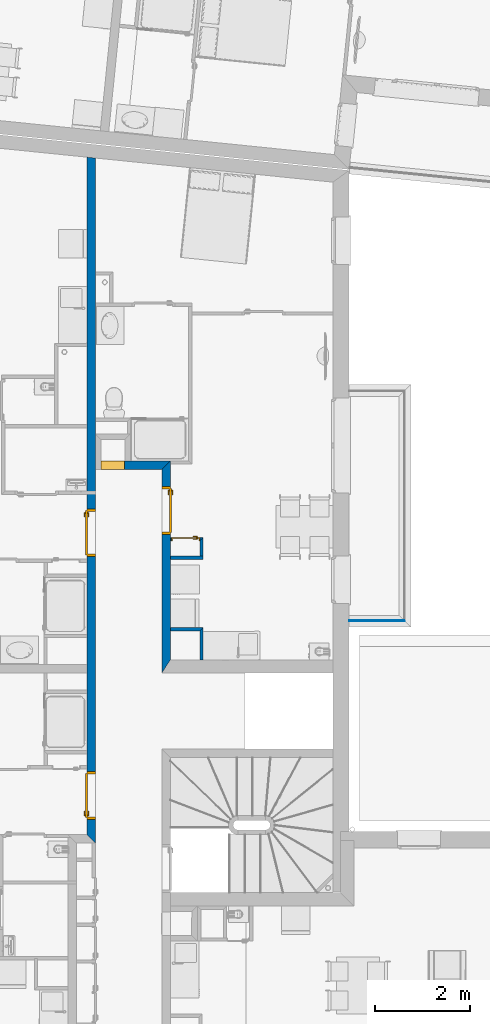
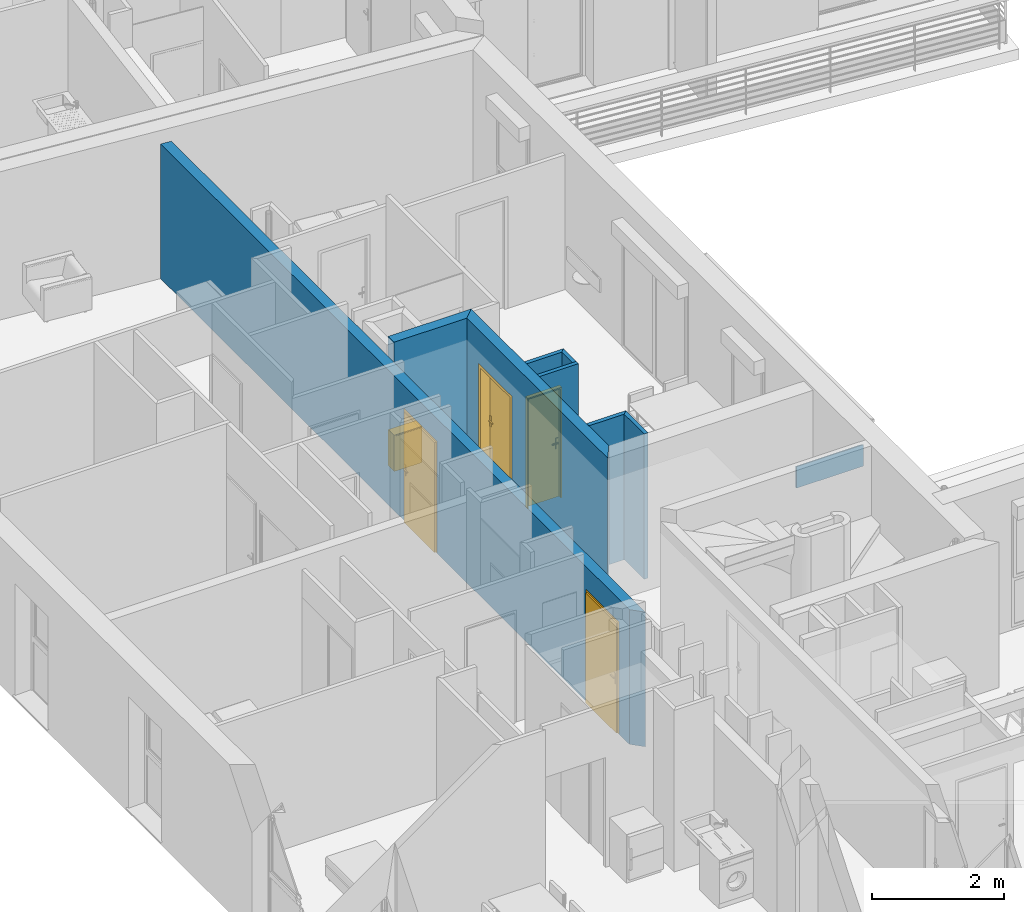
# One storey, part 31 of 164: 9 walls, 5 doors, 5 openings.
"""IFC2X3 building model written with IfcOpenShell, lengths in millimetres."""

from ifc_helpers import new_model, entity, si_unit, converted_unit, derived_unit, money_unit, direction, frame, origin_with_axes, origin_2d_with_axis, place, context, subcontext, project, spatial, polyline, rectangle, outline, extrude, faceted_brep, source, transform, mapped, material, layer, layer_set, layer_usage, type_object, element, fill, save


model = new_model("IFC2X3")

# Units and contexts
model_context = context("Model", 3, precision=0.01, world=origin_with_axes(), true_north=direction((0.0, 1.0)))
body_context = subcontext(model_context, "Body", "Model", "MODEL_VIEW")
ifc_project = project(units=[si_unit("LENGTHUNIT", "METRE", prefix="MILLI"), si_unit("AREAUNIT", "SQUARE_METRE"), si_unit("VOLUMEUNIT", "CUBIC_METRE"), converted_unit("PLANEANGLEUNIT", "DEGREE", entity("IfcPlaneAngleMeasure", 0.0174532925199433), si_unit("PLANEANGLEUNIT", "RADIAN"), dimensions=[0, 0, 0, 0, 0, 0, 0]), money_unit("USD"), converted_unit("TIMEUNIT", "Year", entity("IfcTimeMeasure", 31557600.0), si_unit("TIMEUNIT", "SECOND"), dimensions=[0, 0, 1, 0, 0, 0, 0]), si_unit("MASSUNIT", "GRAM", prefix="KILO"), si_unit("THERMODYNAMICTEMPERATUREUNIT", "DEGREE_CELSIUS"), si_unit("LUMINOUSINTENSITYUNIT", "LUMEN"), si_unit("ENERGYUNIT", "JOULE", prefix="MEGA"), derived_unit("THERMALCONDUCTANCEUNIT", [(si_unit("POWERUNIT", "WATT"), 1), (si_unit("LENGTHUNIT", "METRE"), -1), (si_unit("THERMODYNAMICTEMPERATUREUNIT", "KELVIN"), -1)]), derived_unit("SPECIFICHEATCAPACITYUNIT", [(si_unit("ENERGYUNIT", "JOULE"), 1), (si_unit("MASSUNIT", "GRAM", prefix="KILO"), -1), (si_unit("THERMODYNAMICTEMPERATUREUNIT", "KELVIN"), -1)]), derived_unit("MASSDENSITYUNIT", [(si_unit("MASSUNIT", "GRAM", prefix="KILO"), 1), (si_unit("VOLUMEUNIT", "CUBIC_METRE"), -1)])], contexts=[model_context])

# Site, building, storey
site_placement = place(None, origin_with_axes())
site = spatial("IfcSite", under=ifc_project, at=site_placement, Name="Site", CompositionType="ELEMENT")
building_placement = place(site_placement, origin_with_axes())
building = spatial("IfcBuilding", under=site, at=building_placement, Name="Bâtiment", CompositionType="ELEMENT")
storey_placement = place(building_placement, frame((0.0, 0.0, 5750.0), z_axis=(0.0, 0.0, 1.0), x_axis=(1.0, 0.0, 0.0)))
storey = spatial("IfcBuildingStorey", under=building, at=storey_placement, Name="Etage1", CompositionType="ELEMENT", Elevation=5750.0)

# Wall, openings, doors
ifc_material_1 = material(Name="Parpaing 314940890")
ifc_layer_1 = layer(ifc_material_1, 180.0, ventilated="UNKNOWN")
ifc_layer_set_1 = layer_set([ifc_layer_1], Name="Beton  18 0018356637")
ifc_layer_usage_1 = layer_usage(ifc_layer_set_1, "AXIS2", "NEGATIVE", 0.0)
wall_type_1 = type_object("IfcWallType", Name="Beton  18 0018356637 180", PredefinedType="NOTDEFINED")
wall_1_placement = place(storey_placement, frame((2224312.31835671, -621489.740300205, 0.0), z_axis=(0.0, 0.0, 1.0), x_axis=(5.5594792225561e-06, -0.9999999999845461, 0.0)))
wall_1 = element("IfcWallStandardCase", 1, at=wall_1_placement, inside=storey, type_object=wall_type_1, material=ifc_layer_usage_1, Name="Mur-143", context=body_context, shape_type="SweptSolid", body=[
    extrude(outline(polyline([(263.1489631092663, -180.0000000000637), (14517.55782221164, -180.0000000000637), (14697.55927324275, -1.13686837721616e-10), (281.4422849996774, 0.0), (263.1489631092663, -180.0000000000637)])), origin_with_axes(), (0.0, 0.0, 1.0), 2500.000000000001),
])
opening_1_placement = place(wall_1_placement, frame((13699.36717597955, -1.13686837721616e-10, 0.0), z_axis=(0.0, 0.0, 1.0), x_axis=(1.0, 0.0, 0.0)))
opening_1 = element("IfcOpeningElement", 2, at=opening_1_placement, cuts=wall_1, Name="Por-295", context=body_context, shape_type="SweptSolid", body=[
    extrude(rectangle(XDim=1010.00001192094, YDim=2080.0, at=origin_2d_with_axis()), frame((-5.960473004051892e-06, 180.0000000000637, 1040.0), z_axis=(0.0, -1.0, 0.0), x_axis=(-1.0, 0.0, 0.0)), (0.0, 0.0, 1.0), 360.0),
])
opening_2_placement = place(wall_1_placement, frame((8169.925829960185, 0.0, 0.0), z_axis=(0.0, 0.0, 1.0), x_axis=(1.0, 0.0, 0.0)))
opening_2 = element("IfcOpeningElement", 3, at=opening_2_placement, cuts=wall_1, Name="Por-295", context=body_context, shape_type="SweptSolid", body=[
    extrude(rectangle(XDim=1010.00001192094, YDim=2080.0, at=origin_2d_with_axis()), frame((5.960473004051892e-06, 179.99999999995, 1040.0), z_axis=(0.0, 1.0, 0.0), x_axis=(1.0, 0.0, 0.0)), (0.0, 0.0, -1.0), 360.0),
])
door_style = type_object("IfcDoorStyle", Name="Porte_1v", ConstructionType="NOTDEFINED", OperationType="NOTDEFINED", ParameterTakesPrecedence=False, Sizeable=False)
shared_shape_1 = source(origin_with_axes(), body_context, "Body", "Brep", [
    faceted_brep([(504.9999999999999, 0.0, 0.0), (464.9999999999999, 0.0, 0.0), (464.9999999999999, 0.0, 2040.0), (-464.9999999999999, 0.0, 2040.0), (-464.9999999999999, 0.0, 0.0), (-504.9999999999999, 0.0, 0.0), (-504.9999999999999, 0.0, 2080.0), (504.9999999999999, 0.0, 2080.0), (504.9999999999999, -180.0, 0.0), (449.9999999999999, -180.0, 0.0), (449.9999999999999, -15.0, 0.0), (464.9999999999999, -15.0, 0.0), (464.9999999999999, -15.0, 2040.0), (-464.9999999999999, -15.0, 2040.0), (-464.9999999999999, -15.0, 0.0), (-449.9999999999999, -15.0, 0.0), (-449.9999999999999, -180.0, 0.0), (-504.9999999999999, -180.0, 0.0), (-504.9999999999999, -180.0, 2080.0), (504.9999999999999, -180.0, 2080.0), (-449.9999999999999, -180.0, 2025.0), (449.9999999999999, -180.0, 2025.0), (449.9999999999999, -15.0, 2025.0), (-449.9999999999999, -15.0, 2025.0)], [[[0, 1, 2, 3, 4, 5, 6, 7]], [[0, 8, 9, 10, 11, 1]], [[1, 11, 12, 2]], [[2, 12, 13, 3]], [[3, 13, 14, 4]], [[5, 4, 14, 15, 16, 17]], [[18, 6, 5, 17]], [[19, 7, 6, 18]], [[8, 0, 7, 19]], [[9, 8, 19, 18, 17, 16, 20, 21]], [[10, 9, 21, 22]], [[11, 10, 22, 23, 15, 14, 13, 12]], [[23, 20, 16, 15]], [[22, 21, 20, 23]]]),
    faceted_brep([(-399.9999999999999, -15.0, 900.0), (-439.9999999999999, -15.0, 900.0), (-439.9999999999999, -15.0, 1100.0), (-399.9999999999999, -15.0, 1100.0), (-399.9999999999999, -25.0, 900.0), (-439.9999999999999, -25.0, 900.0), (-439.9999999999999, -25.0, 1100.0), (-399.9999999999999, -25.0, 1100.0)], [[[0, 1, 2, 3]], [[1, 0, 4, 5]], [[2, 1, 5, 6]], [[3, 2, 6, 7]], [[0, 3, 7, 4]], [[5, 4, 7, 6]]]),
    faceted_brep([(-329.9999999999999, -25.0, 1000.0), (-429.9999999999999, -25.0, 1000.0), (-429.9999999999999, -25.0, 1020.0), (-329.9999999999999, -25.0, 1020.0), (-329.9999999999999, -44.99999999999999, 1000.0), (-429.9999999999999, -44.99999999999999, 1000.0), (-429.9999999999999, -44.99999999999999, 1020.0), (-329.9999999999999, -44.99999999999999, 1020.0)], [[[0, 1, 2, 3]], [[1, 0, 4, 5]], [[2, 1, 5, 6]], [[3, 2, 6, 7]], [[0, 3, 7, 4]], [[5, 4, 7, 6]]]),
    faceted_brep([(-399.9999999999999, 34.99999999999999, 900.0), (-439.9999999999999, 34.99999999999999, 900.0), (-439.9999999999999, 34.99999999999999, 1100.0), (-399.9999999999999, 34.99999999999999, 1100.0), (-399.9999999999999, 25.0, 900.0), (-439.9999999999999, 25.0, 900.0), (-439.9999999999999, 25.0, 1100.0), (-399.9999999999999, 25.0, 1100.0)], [[[0, 1, 2, 3]], [[1, 0, 4, 5]], [[2, 1, 5, 6]], [[3, 2, 6, 7]], [[0, 3, 7, 4]], [[5, 4, 7, 6]]]),
    faceted_brep([(-329.9999999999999, 55.0, 1000.0), (-429.9999999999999, 55.0, 1000.0), (-429.9999999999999, 55.0, 1020.0), (-329.9999999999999, 55.0, 1020.0), (-329.9999999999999, 34.99999999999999, 1000.0), (-429.9999999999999, 34.99999999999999, 1000.0), (-429.9999999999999, 34.99999999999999, 1020.0), (-329.9999999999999, 34.99999999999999, 1020.0)], [[[0, 1, 2, 3]], [[1, 0, 4, 5]], [[2, 1, 5, 6]], [[3, 2, 6, 7]], [[0, 3, 7, 4]], [[5, 4, 7, 6]]]),
    faceted_brep([(-464.9999999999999, 25.0, 0.0), (464.9999999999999, 25.0, 0.0), (464.9999999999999, -15.0, 0.0), (-464.9999999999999, -15.0, 0.0), (-464.9999999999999, 25.0, 2040.0), (464.9999999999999, 25.0, 2040.0), (464.9999999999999, -15.0, 2040.0), (-464.9999999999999, -15.0, 2040.0)], [[[0, 1, 2, 3]], [[0, 4, 5, 1]], [[1, 5, 6, 2]], [[3, 2, 6, 7]], [[4, 0, 3, 7]], [[5, 4, 7, 6]]]),
])
door_1_placement = place(opening_1_placement, frame((464.9999999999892, 2.273736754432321e-10, 0.0), z_axis=(0.0, 0.0, 1.0), x_axis=(-1.0, 0.0, 0.0)))
door_1 = element("IfcDoor", 4, at=door_1_placement, inside=storey, type_object=door_style, Name="Por-295", OverallHeight=2040.0, OverallWidth=930.0, context=body_context, shape_type="MappedRepresentation", body=[
    mapped(shared_shape_1, transform((465.0000000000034, 180.0000000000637, 0.0))),
])
fill(opening_1, door_1)
shared_shape_2 = source(origin_with_axes(), body_context, "Body", "Brep", [
    faceted_brep([(-504.9999999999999, 0.0, 0.0), (-504.9999999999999, 0.0, 2080.0), (504.9999999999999, 0.0, 2080.0), (504.9999999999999, 0.0, 0.0), (464.9999999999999, 0.0, 0.0), (464.9999999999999, 0.0, 2040.0), (-464.9999999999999, 0.0, 2040.0), (-464.9999999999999, 0.0, 0.0), (-504.9999999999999, -180.0, 0.0), (-504.9999999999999, -180.0, 2080.0), (504.9999999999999, -180.0, 2080.0), (504.9999999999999, -180.0, 0.0), (449.9999999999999, -180.0, 0.0), (449.9999999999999, -15.0, 0.0), (464.9999999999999, -15.0, 0.0), (464.9999999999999, -15.0, 2040.0), (-464.9999999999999, -15.0, 2040.0), (-464.9999999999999, -15.0, 0.0), (-449.9999999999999, -15.0, 0.0), (-449.9999999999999, -180.0, 0.0), (-449.9999999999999, -180.0, 2025.0), (449.9999999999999, -180.0, 2025.0), (449.9999999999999, -15.0, 2025.0), (-449.9999999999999, -15.0, 2025.0)], [[[0, 1, 2, 3, 4, 5, 6, 7]], [[8, 9, 1, 0]], [[9, 10, 2, 1]], [[10, 11, 3, 2]], [[3, 11, 12, 13, 14, 4]], [[5, 4, 14, 15]], [[6, 5, 15, 16]], [[7, 6, 16, 17]], [[0, 7, 17, 18, 19, 8]], [[19, 20, 21, 12, 11, 10, 9, 8]], [[22, 13, 12, 21]], [[17, 16, 15, 14, 13, 22, 23, 18]], [[18, 23, 20, 19]], [[23, 22, 21, 20]]]),
    faceted_brep([(399.9999999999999, -15.0, 900.0), (399.9999999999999, -15.0, 1100.0), (439.9999999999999, -15.0, 1100.0), (439.9999999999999, -15.0, 900.0), (399.9999999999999, -25.0, 900.0), (399.9999999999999, -25.0, 1100.0), (439.9999999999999, -25.0, 1100.0), (439.9999999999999, -25.0, 900.0)], [[[0, 1, 2, 3]], [[0, 4, 5, 1]], [[1, 5, 6, 2]], [[2, 6, 7, 3]], [[3, 7, 4, 0]], [[7, 6, 5, 4]]]),
    faceted_brep([(329.9999999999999, -25.0, 1000.0), (329.9999999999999, -25.0, 1020.0), (429.9999999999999, -25.0, 1020.0), (429.9999999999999, -25.0, 1000.0), (329.9999999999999, -44.99999999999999, 1000.0), (329.9999999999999, -44.99999999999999, 1020.0), (429.9999999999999, -44.99999999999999, 1020.0), (429.9999999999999, -44.99999999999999, 1000.0)], [[[0, 1, 2, 3]], [[0, 4, 5, 1]], [[1, 5, 6, 2]], [[2, 6, 7, 3]], [[3, 7, 4, 0]], [[7, 6, 5, 4]]]),
    faceted_brep([(399.9999999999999, 34.99999999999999, 900.0), (399.9999999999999, 34.99999999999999, 1100.0), (439.9999999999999, 34.99999999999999, 1100.0), (439.9999999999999, 34.99999999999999, 900.0), (399.9999999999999, 25.0, 900.0), (399.9999999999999, 25.0, 1100.0), (439.9999999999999, 25.0, 1100.0), (439.9999999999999, 25.0, 900.0)], [[[0, 1, 2, 3]], [[0, 4, 5, 1]], [[1, 5, 6, 2]], [[2, 6, 7, 3]], [[3, 7, 4, 0]], [[7, 6, 5, 4]]]),
    faceted_brep([(329.9999999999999, 55.0, 1000.0), (329.9999999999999, 55.0, 1020.0), (429.9999999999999, 55.0, 1020.0), (429.9999999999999, 55.0, 1000.0), (329.9999999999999, 34.99999999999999, 1000.0), (329.9999999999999, 34.99999999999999, 1020.0), (429.9999999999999, 34.99999999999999, 1020.0), (429.9999999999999, 34.99999999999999, 1000.0)], [[[0, 1, 2, 3]], [[0, 4, 5, 1]], [[1, 5, 6, 2]], [[2, 6, 7, 3]], [[3, 7, 4, 0]], [[7, 6, 5, 4]]]),
    faceted_brep([(464.9999999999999, 25.0, 0.0), (464.9999999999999, -15.0, 0.0), (-464.9999999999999, -15.0, 0.0), (-464.9999999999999, 25.0, 0.0), (464.9999999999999, 25.0, 2040.0), (464.9999999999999, -15.0, 2040.0), (-464.9999999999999, -15.0, 2040.0), (-464.9999999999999, 25.0, 2040.0)], [[[0, 1, 2, 3]], [[4, 5, 1, 0]], [[1, 5, 6, 2]], [[3, 2, 6, 7]], [[0, 3, 7, 4]], [[7, 6, 5, 4]]]),
])
door_2_placement = place(opening_2_placement, frame((465.0000000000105, 1.13686837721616e-10, 0.0), z_axis=(0.0, 0.0, 1.0), x_axis=(-1.0, 0.0, 0.0)))
door_2 = element("IfcDoor", 5, at=door_2_placement, inside=storey, type_object=door_style, Name="Por-295", OverallHeight=2040.0, OverallWidth=930.0, context=body_context, shape_type="MappedRepresentation", body=[
    mapped(shared_shape_2, transform((464.9999999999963, 180.0000000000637, 0.0))),
])
fill(opening_2, door_2)

# Wall, opening, door
ifc_layer_usage_2 = layer_usage(ifc_layer_set_1, "AXIS2", "POSITIVE", 0.0)
wall_2_placement = place(storey_placement, frame((2225712.31835671, -628147.4571735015, 0.0), z_axis=(0.0, 0.0, 1.0), x_axis=(0.0, -1.0, 0.0)))
wall_2 = element("IfcWallStandardCase", 6, at=wall_2_placement, inside=storey, type_object=wall_type_1, material=ifc_layer_usage_2, Name="Mur-143", context=body_context, shape_type="SweptSolid", body=[
    extrude(outline(polyline([(180.0000000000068, 0.0), (4466.057505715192, 0.0), (4186.057505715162, 179.99999999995), (0.0, 179.99999999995), (180.0000000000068, 0.0)])), origin_with_axes(), (0.0, 0.0, 1.0), 2700.0),
])
opening_3_placement = place(wall_2_placement, frame((1043.526442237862, -2.273736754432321e-10, 0.0), z_axis=(0.0, 0.0, 1.0), x_axis=(1.0, 0.0, 0.0)))
opening_3 = element("IfcOpeningElement", 7, at=opening_3_placement, cuts=wall_2, Name="Por-296", context=body_context, shape_type="SweptSolid", body=[
    extrude(rectangle(XDim=1010.00001192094, YDim=2080.0, at=origin_2d_with_axis()), frame((5.960487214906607e-06, -179.99999999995, 1040.0), z_axis=(0.0, 1.0, 0.0), x_axis=(1.0, 0.0, 0.0)), (0.0, 0.0, 1.0), 360.0),
])
door_3_placement = place(opening_3_placement, frame((-465.0000000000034, 2.273736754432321e-10, 0.0), z_axis=(0.0, 0.0, 1.0), x_axis=(1.0, 0.0, 0.0)))
door_3 = element("IfcDoor", 8, at=door_3_placement, inside=storey, type_object=door_style, Name="Por-296", OverallHeight=2040.0, OverallWidth=930.0, context=body_context, shape_type="MappedRepresentation", body=[
    mapped(shared_shape_1, transform((464.9999999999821, 180.0000000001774, 0.0))),
])
fill(opening_3, door_3)

ifc_layer_usage_3 = layer_usage(ifc_layer_set_1, "AXIS2", "NEGATIVE", 0.0)
wall_3_placement = place(storey_placement, frame((2224312.31835671, -628147.4571735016, 0.0), z_axis=(0.0, 0.0, 1.0), x_axis=(1.0, 0.0, 0.0)))
wall_3 = element("IfcWallStandardCase", 9, at=wall_3_placement, inside=storey, type_object=wall_type_1, material=ifc_layer_usage_3, Name="Mur-142", context=body_context, shape_type="SweptSolid", body=[
    extrude(outline(polyline([(120.0000000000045, -180.0000000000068), (1399.999999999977, -179.9999999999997), (1579.999999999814, 0.0), (120.0000000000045, 0.0), (120.0000000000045, -180.0000000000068)])), origin_with_axes(), (0.0, 0.0, 1.0), 2700.0),
])
opening_4_placement = place(wall_3_placement, frame((369.4324055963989, 0.0, 299.9999999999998), z_axis=(0.0, 0.0, 1.0), x_axis=(1.0, 0.0, 0.0)))
opening_4 = element("IfcOpeningElement", 10, at=opening_4_placement, cuts=wall_3, Name="Por-241", context=body_context, shape_type="SweptSolid", body=[
    extrude(rectangle(XDim=489.9999985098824, YDim=669.9999999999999, at=origin_2d_with_axis()), frame((-7.451035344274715e-07, 179.9999999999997, 334.9999999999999), z_axis=(0.0, 1.0, 0.0), x_axis=(1.0, 0.0, 0.0)), (0.0, 0.0, -1.0), 360.0),
])
shared_shape_3 = source(origin_with_axes(), body_context, "Body", "Brep", [
    faceted_brep([(-245.0, 0.0, 0.0), (-245.0, 0.0, 670.0), (245.0, 0.0, 670.0), (245.0, 0.0, 0.0), (225.0, 0.0, 0.0), (225.0, 0.0, 650.0), (-225.0, 0.0, 650.0), (-225.0, 0.0, 0.0), (-245.0, -180.0, 0.0), (-245.0, -180.0, 670.0), (245.0, -180.0, 670.0), (245.0, -180.0, 0.0), (210.0, -180.0, 0.0), (210.0, -15.0, 0.0), (225.0, -15.0, 0.0), (225.0, -15.0, 650.0), (-225.0, -15.0, 650.0), (-225.0, -15.0, 0.0), (-210.0, -15.0, 0.0), (-210.0, -180.0, 0.0), (-210.0, -180.0, 635.0), (210.0, -180.0, 635.0), (210.0, -15.0, 635.0), (-210.0, -15.0, 635.0)], [[[0, 1, 2, 3, 4, 5, 6, 7]], [[8, 9, 1, 0]], [[9, 10, 2, 1]], [[10, 11, 3, 2]], [[3, 11, 12, 13, 14, 4]], [[5, 4, 14, 15]], [[6, 5, 15, 16]], [[7, 6, 16, 17]], [[0, 7, 17, 18, 19, 8]], [[19, 20, 21, 12, 11, 10, 9, 8]], [[22, 13, 12, 21]], [[17, 16, 15, 14, 13, 22, 23, 18]], [[18, 23, 20, 19]], [[23, 22, 21, 20]]]),
    faceted_brep([(225.0, 5.000000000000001, 0.0), (225.0, -15.0, 0.0), (-225.0, -15.0, 0.0), (-225.0, 5.000000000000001, 0.0), (225.0, 5.000000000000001, 650.0), (225.0, -15.0, 650.0), (-225.0, -15.0, 650.0), (-225.0, 5.000000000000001, 650.0)], [[[0, 1, 2, 3]], [[4, 5, 1, 0]], [[1, 5, 6, 2]], [[3, 2, 6, 7]], [[0, 3, 7, 4]], [[7, 6, 5, 4]]]),
])
door_4_placement = place(opening_4_placement, frame((225.0000000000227, 0.0, 0.0), z_axis=(0.0, 0.0, 1.0), x_axis=(-1.0, 0.0, 0.0)))
door_4 = element("IfcDoor", 11, at=door_4_placement, inside=storey, type_object=door_style, Name="Por-241", OverallHeight=650.0, OverallWidth=450.0, context=body_context, shape_type="MappedRepresentation", body=[
    mapped(shared_shape_3, transform((225.0000000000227, 180.0000000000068, 0.0))),
])
fill(opening_4, door_4)

# Wall
ifc_material_2 = material(Name="Hachure solide 268963992")
ifc_layer_2 = layer(ifc_material_2, 70.0, ventilated="UNKNOWN")
ifc_layer_set_2 = layer_set([ifc_layer_2], Name="Cloison 70 0826278243")
ifc_layer_usage_4 = layer_usage(ifc_layer_set_2, "AXIS2", "POSITIVE", -70.0)
wall_type_2 = type_object("IfcWallType", Name="Cloison 70 0826278243 70", PredefinedType="NOTDEFINED")
wall_4_placement = place(storey_placement, frame((2225892.318356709, -630151.0728403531, 0.0), z_axis=(0.0, 0.0, 1.0), x_axis=(1.0, 0.0, 0.0)))
element("IfcWallStandardCase", 12, at=wall_4_placement, inside=storey, type_object=wall_type_2, material=ifc_layer_usage_4, Name="Mur-149", context=body_context, shape_type="SweptSolid", body=[
    extrude(outline(polyline([(0.0, -70.00000000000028), (689.3850035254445, -70.00000000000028), (689.3850035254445, 0.0), (0.0, 0.0), (0.0, -70.00000000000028)])), origin_with_axes(), (0.0, 0.0, 1.0), 2700.0),
])

# Wall, opening, door
ifc_layer_usage_5 = layer_usage(ifc_layer_set_2, "AXIS2", "POSITIVE", -70.0)
wall_5_placement = place(storey_placement, frame((2225712.318356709, -629761.0728403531, 0.0), z_axis=(0.0, 0.0, 1.0), x_axis=(1.0, 0.0, 0.0)))
wall_5 = element("IfcWallStandardCase", 13, at=wall_5_placement, inside=storey, type_object=wall_type_2, material=ifc_layer_usage_5, Name="Mur-149", context=body_context, shape_type="SweptSolid", body=[
    extrude(outline(polyline([(180.0000000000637, -70.00000000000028), (799.3850035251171, -70.00000000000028), (869.3850035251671, 0.0), (180.0000000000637, 0.0), (180.0000000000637, -70.00000000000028)])), origin_with_axes(), (0.0, 0.0, 1.0), 2700.0),
])
opening_5_placement = place(wall_5_placement, frame((499.3850035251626, 0.0, 0.0), z_axis=(0.0, 0.0, 1.0), x_axis=(1.0, 0.0, 0.0)))
opening_5 = element("IfcOpeningElement", 14, at=opening_5_placement, cuts=wall_5, Name="Por-274", context=body_context, shape_type="SweptSolid", body=[
    extrude(rectangle(XDim=599.9999999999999, YDim=2050.0, at=origin_2d_with_axis()), frame((0.0, -70.00000000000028, 1025.0), z_axis=(0.0, -1.0, 0.0), x_axis=(-1.0, 0.0, 0.0)), (0.0, 0.0, -1.0), 140.0),
])
shared_shape_4 = source(origin_with_axes(), body_context, "Body", "Brep", [
    faceted_brep([(-300.0, 0.0, 0.0), (-300.0, 0.0, 2050.0), (300.0, 0.0, 2050.0), (300.0, 0.0, 0.0), (290.0, 0.0, 0.0), (290.0, 0.0, 2040.0), (-290.0, 0.0, 2040.0), (-290.0, 0.0, 0.0), (-300.0, -70.0, 0.0), (-300.0, -70.0, 2050.0), (300.0, -70.0, 2050.0), (300.0, -70.0, 0.0), (279.9999999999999, -70.0, 0.0), (279.9999999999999, -15.0, 0.0), (290.0, -15.0, 0.0), (290.0, -15.0, 2040.0), (-290.0, -15.0, 2040.0), (-290.0, -15.0, 0.0), (-279.9999999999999, -15.0, 0.0), (-279.9999999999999, -70.0, 0.0), (-279.9999999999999, -70.0, 2030.0), (279.9999999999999, -70.0, 2030.0), (279.9999999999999, -15.0, 2030.0), (-279.9999999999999, -15.0, 2030.0)], [[[0, 1, 2, 3, 4, 5, 6, 7]], [[8, 9, 1, 0]], [[9, 10, 2, 1]], [[10, 11, 3, 2]], [[3, 11, 12, 13, 14, 4]], [[5, 4, 14, 15]], [[6, 5, 15, 16]], [[7, 6, 16, 17]], [[0, 7, 17, 18, 19, 8]], [[19, 20, 21, 12, 11, 10, 9, 8]], [[22, 13, 12, 21]], [[17, 16, 15, 14, 13, 22, 23, 18]], [[18, 23, 20, 19]], [[23, 22, 21, 20]]]),
    faceted_brep([(224.9999999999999, -15.0, 900.0), (224.9999999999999, -15.0, 1100.0), (264.9999999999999, -15.0, 1100.0), (264.9999999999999, -15.0, 900.0), (224.9999999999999, -25.0, 900.0), (224.9999999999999, -25.0, 1100.0), (264.9999999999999, -25.0, 1100.0), (264.9999999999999, -25.0, 900.0)], [[[0, 1, 2, 3]], [[0, 4, 5, 1]], [[1, 5, 6, 2]], [[2, 6, 7, 3]], [[3, 7, 4, 0]], [[7, 6, 5, 4]]]),
    faceted_brep([(154.9999999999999, -25.0, 1000.0), (154.9999999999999, -25.0, 1020.0), (254.9999999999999, -25.0, 1020.0), (254.9999999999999, -25.0, 1000.0), (154.9999999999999, -45.0, 1000.0), (154.9999999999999, -45.0, 1020.0), (254.9999999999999, -45.0, 1020.0), (254.9999999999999, -45.0, 1000.0)], [[[0, 1, 2, 3]], [[0, 4, 5, 1]], [[1, 5, 6, 2]], [[2, 6, 7, 3]], [[3, 7, 4, 0]], [[7, 6, 5, 4]]]),
    faceted_brep([(224.9999999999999, 15.0, 900.0), (224.9999999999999, 15.0, 1100.0), (264.9999999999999, 15.0, 1100.0), (264.9999999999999, 15.0, 900.0), (224.9999999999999, 5.000000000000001, 900.0), (224.9999999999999, 5.000000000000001, 1100.0), (264.9999999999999, 5.000000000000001, 1100.0), (264.9999999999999, 5.000000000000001, 900.0)], [[[0, 1, 2, 3]], [[0, 4, 5, 1]], [[1, 5, 6, 2]], [[2, 6, 7, 3]], [[3, 7, 4, 0]], [[7, 6, 5, 4]]]),
    faceted_brep([(154.9999999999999, 35.0, 1000.0), (154.9999999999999, 35.0, 1020.0), (254.9999999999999, 35.0, 1020.0), (254.9999999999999, 35.0, 1000.0), (154.9999999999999, 15.0, 1000.0), (154.9999999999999, 15.0, 1020.0), (254.9999999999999, 15.0, 1020.0), (254.9999999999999, 15.0, 1000.0)], [[[0, 1, 2, 3]], [[0, 4, 5, 1]], [[1, 5, 6, 2]], [[2, 6, 7, 3]], [[3, 7, 4, 0]], [[7, 6, 5, 4]]]),
    faceted_brep([(290.0, 5.000000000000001, 0.0), (290.0, -15.0, 0.0), (-290.0, -15.0, 0.0), (-290.0, 5.000000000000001, 0.0), (290.0, 5.000000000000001, 2040.0), (290.0, -15.0, 2040.0), (-290.0, -15.0, 2040.0), (-290.0, 5.000000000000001, 2040.0)], [[[0, 1, 2, 3]], [[4, 5, 1, 0]], [[1, 5, 6, 2]], [[3, 2, 6, 7]], [[0, 3, 7, 4]], [[7, 6, 5, 4]]]),
])
door_5_placement = place(opening_5_placement, frame((-290.0000000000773, 0.0, 0.0), z_axis=(0.0, 0.0, 1.0), x_axis=(1.0, 0.0, 0.0)))
door_5 = element("IfcDoor", 15, at=door_5_placement, inside=storey, type_object=door_style, Name="Por-274", OverallHeight=2040.0, OverallWidth=580.0, context=body_context, shape_type="MappedRepresentation", body=[
    mapped(shared_shape_4, transform((289.9999999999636, 0.0, 0.0))),
])
fill(opening_5, door_5)

# Walls
ifc_layer_usage_6 = layer_usage(ifc_layer_set_2, "AXIS2", "NEGATIVE", 70.0)
wall_6_placement = place(storey_placement, frame((2226511.703360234, -629761.0728403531, 0.0), z_axis=(0.0, 0.0, 1.0), x_axis=(0.0, -1.0, 0.0)))
element("IfcWallStandardCase", 16, at=wall_6_placement, inside=storey, type_object=wall_type_2, material=ifc_layer_usage_6, Name="Mur-149", context=body_context, shape_type="SweptSolid", body=[
    extrude(outline(polyline([(70.00000000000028, 0.0), (389.9999999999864, 0.0), (389.9999999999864, 70.00000000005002), (0.0, 70.00000000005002), (70.00000000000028, 0.0)])), origin_with_axes(), (0.0, 0.0, 1.0), 2700.0),
])
ifc_layer_usage_7 = layer_usage(ifc_layer_set_2, "AXIS2", "POSITIVE", -70.0)
wall_7_placement = place(storey_placement, frame((2226581.703360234, -631657.6765046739, 0.0), z_axis=(0.0, 0.0, 1.0), x_axis=(-2.310295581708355e-07, -0.9999999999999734, 0.0)))
element("IfcWallStandardCase", 17, at=wall_7_placement, inside=storey, type_object=wall_type_2, material=ifc_layer_usage_7, Name="Mur-148", context=body_context, shape_type="SweptSolid", body=[
    extrude(outline(polyline([(69.99999998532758, -70.00000000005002), (676.2261342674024, -70.00000000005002), (676.2261342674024, 0.0), (0.0, 0.0), (69.99999998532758, -70.00000000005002)])), origin_with_axes(), (0.0, 0.0, 1.0), 2700.0),
])
ifc_material_3 = material(Name="MANQUANT")
ifc_layer_3 = layer(ifc_material_3, 20.0, ventilated="UNKNOWN")
ifc_layer_set_3 = layer_set([ifc_layer_3], Name="MANQUANT 20")
ifc_layer_usage_8 = layer_usage(ifc_layer_set_3, "AXIS2", "NEGATIVE", 20.0)
wall_type_3 = type_object("IfcWallType", Name="MANQUANT 20", PredefinedType="NOTDEFINED")
wall_8_placement = place(storey_placement, frame((2229653.476036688, -631523.3549005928, 99.99999999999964), z_axis=(0.0, 0.0, 1.0), x_axis=(1.0, 0.0, 0.0)))
element("IfcWallStandardCase", 18, at=wall_8_placement, inside=storey, type_object=wall_type_3, material=ifc_layer_usage_8, Name="Mur-159", context=body_context, shape_type="SweptSolid", body=[
    extrude(outline(polyline([(7.181597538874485e-07, 0.0), (1176.91302006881, 0.0), (1156.913020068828, 20.00000000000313), (7.220251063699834e-07, 20.00000000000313), (7.181597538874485e-07, 0.0)])), origin_with_axes(), (0.0, 0.0, 1.0), 400.0),
])
ifc_material_4 = material(Name="Hachure solide 269229667")
ifc_layer_4 = layer(ifc_material_4, 70.0, ventilated="UNKNOWN")
ifc_layer_set_4 = layer_set([ifc_layer_4], Name="Cloison 70 0836576958")
ifc_layer_usage_9 = layer_usage(ifc_layer_set_4, "AXIS2", "NEGATIVE", 0.0)
wall_type_4 = type_object("IfcWallType", Name="Cloison 70 0836576958 70", PredefinedType="NOTDEFINED")
wall_9_placement = place(storey_placement, frame((2225712.318356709, -631657.676303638, 0.0), z_axis=(0.0, 0.0, 1.0), x_axis=(0.9999999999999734, -2.312391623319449e-07, 0.0)))
element("IfcWallStandardCase", 19, at=wall_9_placement, inside=storey, type_object=wall_type_4, material=ifc_layer_usage_9, Name="Mur-148", context=body_context, shape_type="SweptSolid", body=[
    extrude(outline(polyline([(180.0000161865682, -70.00000000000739), (799.3850035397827, -70.00000000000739), (869.3850035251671, 0.0), (179.9999999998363, 0.0), (180.0000161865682, -70.00000000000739)])), origin_with_axes(), (0.0, 0.0, 1.0), 2700.0),
])

save(model, "model.ifc")
